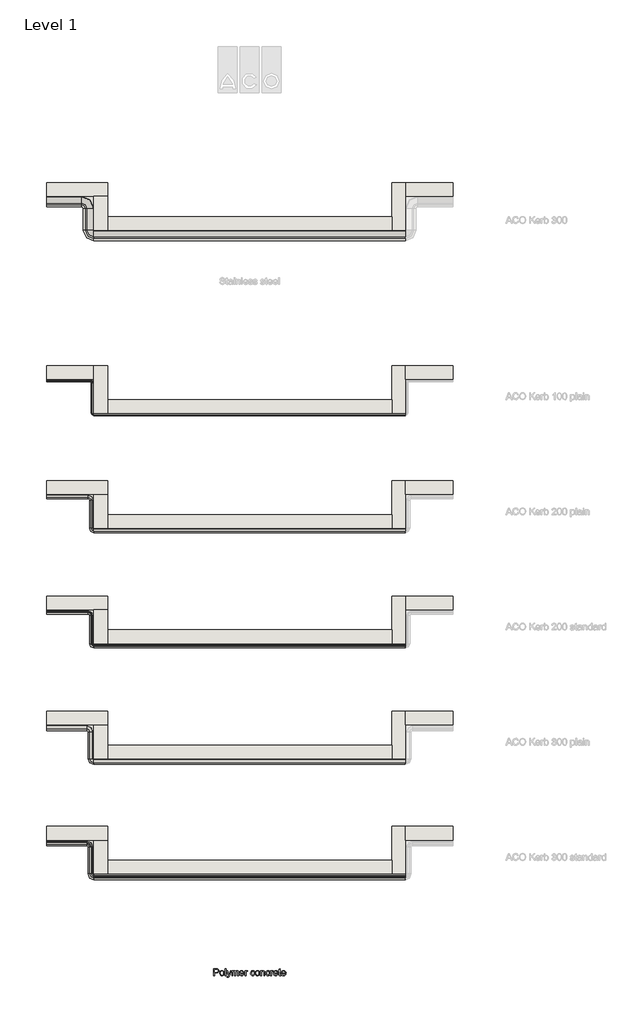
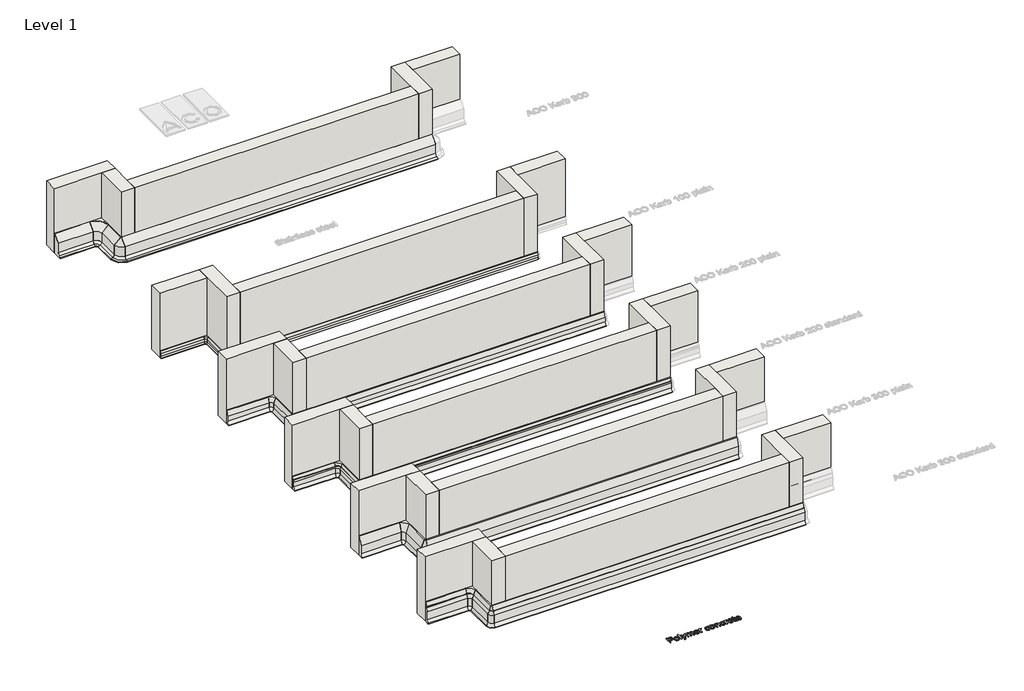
# One storey, part 1 of 4: 55 walls, 1 proxy.
"""IFC4 building model written with IfcOpenShell, lengths in millimetres."""

from ifc_helpers import new_model, si_unit, origin, origin_with_axes, place, context, project, spatial, polyline, outline, extrude, faceted_brep, transform, mapped, element, save
from components import wall_d3cf1265, wall_ed1be866, wall_ba41f0f9, wall_e165e4ae, wall_a8813c9a, wall_454f2aea, wall_7ffb6d73, wall_cbd0d6cb, wall_cad0f0ff, wall_fe3971ef, wall_2b59c576, wall_3451ad8e, wall_c90a62e6, wall_77bbd41e, wall_3f7bc12b, wall_3c18d2a6, wall_ae31afe3, wall_b8364dbe, wall_29dfddbd, wall_fa01e486, wall_fa17ddd6, wall_d662d532, wall_9d54f5ed, wall_18992cda, wall_f734193e

model = new_model("IFC4")

# Units and contexts
model_context = context("Model", 3, world=origin())
ifc_project = project(units=[si_unit("LENGTHUNIT", "METRE", prefix="MILLI")], contexts=[model_context])

# Site, building, storey
site = spatial("IfcSite", under=ifc_project)
building = spatial("IfcBuilding", under=site)
storey = spatial("IfcBuildingStorey", under=building, Name="Level 1", Elevation=0.0)

# Proxy
placement = place(None, origin())
element("IfcBuildingElementProxy", 1, Name="100mm ACO", ObjectType="100mm ACO", at=placement, inside=storey, context=model_context, shape_type="SweptSolid", body=[
    extrude(outline(polyline([(470.3703704, -14300.0), (507.9282407, -14300.0), (523.2349537, -14300.8825231), (535.15625, -14305.46875), (543.4751157, -14315.5237269), (546.2962963, -14328.8194444), (544.0719039, -14341.2507234), (537.3987269, -14350.9403935), (525.8210359, -14357.1795428), (508.8831019, -14359.2592593), (483.3333333, -14359.2592593), (483.3333333, -14400.0), (470.3703704, -14400.0), (470.3703704, -14300.0)]), holes=[polyline([(483.3333333, -14348.1481481), (509.4039352, -14348.1481481), (527.3509838, -14343.4100116), (531.8377459, -14337.4873409), (533.3333333, -14329.1956019), (530.2228009, -14318.2146991), (522.583912, -14312.2829861), (509.1145833, -14311.1111111), (483.3333333, -14311.1111111), (483.3333333, -14348.1481481)])]), origin_with_axes(), (0.0, 0.0, 1.0), 10.0),
    extrude(outline(polyline([(590.7118056, -14325.9259259), (603.8881655, -14328.3203125), (614.5978009, -14335.5034722), (621.7050058, -14347.0992477), (624.0740741, -14362.7314815), (621.5096933, -14381.0040509), (613.8165509, -14392.9976852), (602.911603, -14399.6383102), (590.7118056, -14401.8518519), (578.1213831, -14399.5768229), (567.3177083, -14392.7517361), (559.8849826, -14380.9859664), (557.4074074, -14363.8888889), (559.801794, -14347.1715856), (566.9849537, -14335.3298611), (577.7054398, -14328.2769097), (590.7118056, -14325.9259259)]), holes=[polyline([(590.7118056, -14392.5925926), (599.5189525, -14390.5852141), (605.9172454, -14384.5630787), (611.1111111, -14363.4259259), (609.6426505, -14351.1429398), (605.2372685, -14342.3032407), (598.6689815, -14336.9646991), (590.7118056, -14335.1851852), (582.599103, -14336.9900174), (576.0850694, -14342.4045139), (571.7990451, -14351.3925058), (570.3703704, -14363.9178241), (571.8243634, -14376.3997396), (576.1863426, -14385.3732639), (582.7256944, -14390.7877604), (590.7118056, -14392.5925926)])]), origin_with_axes(), (0.0, 0.0, 1.0), 10.0),
    extrude(outline(polyline([(651.8518519, -14400.0), (638.8888889, -14400.0), (638.8888889, -14300.0), (651.8518519, -14300.0), (651.8518519, -14400.0)])), origin_with_axes(), (0.0, 0.0, 1.0), 10.0),
    extrude(outline(polyline([(727.7777778, -14327.7777778), (700.6076389, -14401.9386574), (691.5653935, -14421.2818287), (685.4781539, -14426.1537905), (677.2569444, -14427.7777778), (669.6759259, -14426.6203704), (668.5185185, -14416.6666667), (675.0578704, -14418.5185185), (683.912037, -14414.5543981), (689.7858796, -14401.0706019), (662.962963, -14327.7777778), (674.681713, -14327.7777778), (692.3032407, -14373.8715278), (695.630787, -14384.8090278), (700.5497685, -14371.1226852), (716.087963, -14327.7777778), (727.7777778, -14327.7777778)])), origin_with_axes(), (0.0, 0.0, 1.0), 10.0),
    extrude(outline(polyline([(835.1851852, -14400.0), (822.2222222, -14400.0), (822.2222222, -14353.2986111), (821.5711806, -14344.4878472), (818.1857639, -14338.0063657), (809.6643519, -14335.1851852), (797.65625, -14340.3356481), (793.8585069, -14347.0920139), (792.5925926, -14357.0601852), (792.5925926, -14400.0), (779.6296296, -14400.0), (779.6296296, -14351.9097222), (776.4467593, -14338.744213), (767.4189815, -14335.1851852), (754.8900463, -14340.7552083), (751.2225116, -14348.7521701), (750.0, -14361.6030093), (750.0, -14400.0), (737.037037, -14400.0), (737.037037, -14327.7777778), (748.1481481, -14327.7777778), (748.1481481, -14337.6736111), (757.5303819, -14328.8628472), (770.0810185, -14325.9259259), (783.2609954, -14329.0943287), (790.7407407, -14338.6284722), (800.2604167, -14329.1015625), (812.8472222, -14325.9259259), (822.620081, -14327.4450231), (829.6006944, -14332.0023148), (833.7890625, -14339.5978009), (835.1851852, -14350.2314815), (835.1851852, -14400.0)])), origin_with_axes(), (0.0, 0.0, 1.0), 10.0),
    extrude(outline(polyline([(916.6666667, -14366.6666667), (862.962963, -14366.6666667), (865.0354456, -14377.7922454), (869.7482639, -14385.9375), (876.5299479, -14390.9288194), (884.8090278, -14392.5925926), (896.484375, -14388.9033565), (903.7037037, -14377.7777778), (916.6666667, -14379.2824074), (912.2902199, -14388.9033565), (905.3530093, -14396.0069444), (896.1082176, -14400.390625), (884.8090278, -14401.8518519), (870.2220775, -14399.3453414), (859.2158565, -14391.8258102), (852.3039641, -14379.9660012), (850.0, -14364.4386574), (852.2207755, -14348.900463), (858.8831019, -14336.6030093), (869.5818866, -14328.5951968), (883.912037, -14325.9259259), (899.1319444, -14329.3836806), (911.5596065, -14341.1603009), (915.3899016, -14351.6963252), (916.6666667, -14366.6666667)]), holes=[polyline([(903.7037037, -14357.4074074), (901.6203704, -14347.2511574), (896.875, -14340.3935185), (883.59375, -14335.1851852), (875.7378472, -14336.7332176), (869.4155093, -14341.3773148), (862.962963, -14357.4074074), (903.7037037, -14357.4074074)])]), origin_with_axes(), (0.0, 0.0, 1.0), 10.0),
    extrude(outline(polyline([(970.3703704, -14328.7615741), (966.3194444, -14337.037037), (957.8125, -14335.1851852), (952.0182292, -14336.8127894), (947.8298611, -14341.6956019), (944.4444444, -14359.9247685), (944.4444444, -14400.0), (931.4814815, -14400.0), (931.4814815, -14327.7777778), (942.5925926, -14327.7777778), (942.5925926, -14338.4837963), (949.5225694, -14329.0653935), (957.9571759, -14325.9259259), (970.3703704, -14328.7615741)])), origin_with_axes(), (0.0, 0.0, 1.0), 10.0),
    extrude(outline(polyline([(1077.7777778, -14375.5497685), (1073.7485532, -14387.3553241), (1066.5798611, -14395.5150463), (1057.2554977, -14400.2676505), (1046.7592593, -14401.8518519), (1032.4435764, -14399.2621528), (1021.7881944, -14391.4930556), (1015.1692708, -14379.4487847), (1012.962963, -14364.0335648), (1017.9976852, -14341.3483796), (1030.5989583, -14329.3836806), (1046.4988426, -14325.9259259), (1065.9577546, -14331.5827546), (1072.4934896, -14338.566985), (1075.9259259, -14348.2060185), (1062.962963, -14350.0), (1057.0601852, -14338.9033565), (1046.6435185, -14335.1851852), (1037.6880787, -14337.0695891), (1031.1921296, -14342.7228009), (1027.2424769, -14351.7541956), (1025.9259259, -14363.7731481), (1027.2460937, -14376.0018808), (1031.2065972, -14385.083912), (1037.6555266, -14390.7154225), (1046.4409722, -14392.5925926), (1059.0422454, -14387.962963), (1064.8148148, -14374.0740741), (1077.7777778, -14375.5497685)])), origin_with_axes(), (0.0, 0.0, 1.0), 10.0),
    extrude(outline(polyline([(1114.7858796, -14325.9259259), (1127.9622396, -14328.3203125), (1138.671875, -14335.5034722), (1145.7790799, -14347.0992477), (1148.1481481, -14362.7314815), (1145.5837674, -14381.0040509), (1137.890625, -14392.9976852), (1126.9856771, -14399.6383102), (1114.7858796, -14401.8518519), (1102.1954572, -14399.5768229), (1091.3917824, -14392.7517361), (1083.9590567, -14380.9859664), (1081.4814815, -14363.8888889), (1083.8758681, -14347.1715856), (1091.0590278, -14335.3298611), (1101.7795139, -14328.2769097), (1114.7858796, -14325.9259259)]), holes=[polyline([(1114.7858796, -14392.5925926), (1123.5930266, -14390.5852141), (1129.9913194, -14384.5630787), (1135.1851852, -14363.4259259), (1133.7167245, -14351.1429398), (1129.3113426, -14342.3032407), (1122.7430556, -14336.9646991), (1114.7858796, -14335.1851852), (1106.6731771, -14336.9900174), (1100.1591435, -14342.4045139), (1095.8731192, -14351.3925058), (1094.4444444, -14363.9178241), (1095.8984375, -14376.3997396), (1100.2604167, -14385.3732639), (1106.7997685, -14390.7877604), (1114.7858796, -14392.5925926)])]), origin_with_axes(), (0.0, 0.0, 1.0), 10.0),
    extrude(outline(polyline([(1222.2222222, -14400.0), (1209.2592593, -14400.0), (1209.2592593, -14355.0347222), (1205.396412, -14339.4386574), (1194.6469907, -14335.1851852), (1184.6209491, -14337.9050926), (1177.9079861, -14345.5729167), (1175.9259259, -14359.5775463), (1175.9259259, -14400.0), (1162.962963, -14400.0), (1162.962963, -14327.7777778), (1174.0740741, -14327.7777778), (1174.0740741, -14337.818287), (1183.9699074, -14328.8917824), (1197.2222222, -14325.9259259), (1208.59375, -14327.9803241), (1217.3900463, -14334.1290509), (1221.3975694, -14342.8674769), (1222.2222222, -14355.4108796), (1222.2222222, -14400.0)])), origin_with_axes(), (0.0, 0.0, 1.0), 10.0),
    extrude(outline(polyline([(1301.8518519, -14375.5497685), (1297.8226273, -14387.3553241), (1290.6539352, -14395.5150463), (1281.3295718, -14400.2676505), (1270.8333333, -14401.8518519), (1256.5176505, -14399.2621528), (1245.8622685, -14391.4930556), (1239.2433449, -14379.4487847), (1237.037037, -14364.0335648), (1242.0717593, -14341.3483796), (1254.6730324, -14329.3836806), (1270.5729167, -14325.9259259), (1290.0318287, -14331.5827546), (1296.5675637, -14338.566985), (1300.0, -14348.2060185), (1287.037037, -14350.0), (1281.1342593, -14338.9033565), (1270.7175926, -14335.1851852), (1261.7621528, -14337.0695891), (1255.2662037, -14342.7228009), (1251.3165509, -14351.7541956), (1250.0, -14363.7731481), (1251.3201678, -14376.0018808), (1255.2806713, -14385.083912), (1261.7296007, -14390.7154225), (1270.5150463, -14392.5925926), (1283.1163194, -14387.962963), (1288.8888889, -14374.0740741), (1301.8518519, -14375.5497685)])), origin_with_axes(), (0.0, 0.0, 1.0), 10.0),
    extrude(outline(polyline([(1348.1481481, -14328.7615741), (1344.0972222, -14337.037037), (1335.5902778, -14335.1851852), (1329.7960069, -14336.8127894), (1325.6076389, -14341.6956019), (1322.2222222, -14359.9247685), (1322.2222222, -14400.0), (1309.2592593, -14400.0), (1309.2592593, -14327.7777778), (1320.3703704, -14327.7777778), (1320.3703704, -14338.4837963), (1327.3003472, -14329.0653935), (1335.7349537, -14325.9259259), (1348.1481481, -14328.7615741)])), origin_with_axes(), (0.0, 0.0, 1.0), 10.0),
    extrude(outline(polyline([(1418.5185185, -14366.6666667), (1364.8148148, -14366.6666667), (1366.8872975, -14377.7922454), (1371.6001157, -14385.9375), (1378.3817998, -14390.9288194), (1386.6608796, -14392.5925926), (1398.3362269, -14388.9033565), (1405.5555556, -14377.7777778), (1418.5185185, -14379.2824074), (1414.1420718, -14388.9033565), (1407.2048611, -14396.0069444), (1397.9600694, -14400.390625), (1386.6608796, -14401.8518519), (1372.0739294, -14399.3453414), (1361.0677083, -14391.8258102), (1354.155816, -14379.9660012), (1351.8518519, -14364.4386574), (1354.0726273, -14348.900463), (1360.7349537, -14336.6030093), (1371.4337384, -14328.5951968), (1385.7638889, -14325.9259259), (1400.9837963, -14329.3836806), (1413.4114583, -14341.1603009), (1417.2417535, -14351.6963252), (1418.5185185, -14366.6666667)]), holes=[polyline([(1405.5555556, -14357.4074074), (1403.4722222, -14347.2511574), (1398.7268519, -14340.3935185), (1385.4456019, -14335.1851852), (1377.5896991, -14336.7332176), (1371.2673611, -14341.3773148), (1364.8148148, -14357.4074074), (1405.5555556, -14357.4074074)])]), origin_with_axes(), (0.0, 0.0, 1.0), 10.0),
    extrude(outline(polyline([(1461.1111111, -14401.0127315), (1452.025463, -14401.8518519), (1440.4369213, -14398.9728009), (1435.9953704, -14391.6666667), (1435.1851852, -14379.3402778), (1435.1851852, -14337.037037), (1425.9259259, -14337.037037), (1425.9259259, -14327.7777778), (1435.1851852, -14327.7777778), (1435.1851852, -14309.4328704), (1448.1481481, -14301.8518519), (1448.1481481, -14327.7777778), (1459.2592593, -14327.7777778), (1459.2592593, -14337.037037), (1448.1481481, -14337.037037), (1448.1481481, -14381.9444444), (1449.1898148, -14390.162037), (1454.4849537, -14392.5925926), (1459.5196759, -14392.5925926), (1461.1111111, -14401.0127315)])), origin_with_axes(), (0.0, 0.0, 1.0), 10.0),
    extrude(outline(polyline([(1535.1851852, -14366.6666667), (1481.4814815, -14366.6666667), (1483.5539641, -14377.7922454), (1488.2667824, -14385.9375), (1495.0484664, -14390.9288194), (1503.3275463, -14392.5925926), (1515.0028935, -14388.9033565), (1522.2222222, -14377.7777778), (1535.1851852, -14379.2824074), (1530.8087384, -14388.9033565), (1523.8715278, -14396.0069444), (1514.6267361, -14400.390625), (1503.3275463, -14401.8518519), (1488.7405961, -14399.3453414), (1477.734375, -14391.8258102), (1470.8224826, -14379.9660012), (1468.5185185, -14364.4386574), (1470.739294, -14348.900463), (1477.4016204, -14336.6030093), (1488.1004051, -14328.5951968), (1502.4305556, -14325.9259259), (1517.650463, -14329.3836806), (1530.078125, -14341.1603009), (1533.9084201, -14351.6963252), (1535.1851852, -14366.6666667)]), holes=[polyline([(1522.2222222, -14357.4074074), (1520.1388889, -14347.2511574), (1515.3935185, -14340.3935185), (1502.1122685, -14335.1851852), (1494.2563657, -14336.7332176), (1487.9340278, -14341.3773148), (1481.4814815, -14357.4074074), (1522.2222222, -14357.4074074)])]), origin_with_axes(), (0.0, 0.0, 1.0), 10.0),
])

# Walls
wall_shape = wall_d3cf1265(model_context)
element("IfcWall", 2, ObjectType="GM_ST_UN_ACO kerb SS outside corner_ACO : S/S H300", at=placement, inside=storey, context=model_context, shape_type="MappedRepresentation", body=[
    mapped(wall_shape, transform((-1300.0, -3400.0, 0.0), x_axis=(1.0, 0.0, 0.0), y_axis=(0.0, 1.0, 0.0), z_axis=(0.0, 0.0, 1.0))),
])
wall_2_shape = wall_ed1be866(model_context)
element("IfcWall", 3, ObjectType="GM_PC_UN_ACO kerb PB inside corner_ACO : PB H200 plain", at=placement, inside=storey, context=model_context, shape_type="MappedRepresentation", body=[
    mapped(wall_2_shape, transform((-1300.0, -7300.0, 0.0), x_axis=(1.0, 0.0, 0.0), y_axis=(0.0, 1.0, 0.0), z_axis=(0.0, 0.0, 1.0))),
])
wall_3_shape = wall_ba41f0f9(model_context)
element("IfcWall", 4, ObjectType="GM_PC_UN_ACO kerb PB inside corner_ACO : PB H300 plain", at=placement, inside=storey, context=model_context, shape_type="MappedRepresentation", body=[
    mapped(wall_3_shape, transform((-1300.0, -10700.0, 0.0), x_axis=(1.0, 0.0, 0.0), y_axis=(0.0, 1.0, 0.0), z_axis=(0.0, 0.0, 1.0))),
])
wall_4_shape = wall_e165e4ae(model_context)
element("IfcWall", 5, ObjectType="GM_PC_UN_ACO kerb PB inside corner_ACO : PB H200 standard", at=placement, inside=storey, context=model_context, shape_type="MappedRepresentation", body=[
    mapped(wall_4_shape, transform((-1300.0, -9000.0, 0.0), x_axis=(1.0, 0.0, 0.0), y_axis=(0.0, 1.0, 0.0), z_axis=(0.0, 0.0, 1.0))),
])
wall_5_shape = wall_a8813c9a(model_context)
element("IfcWall", 6, ObjectType="GM_PC_UN_ACO kerb PB inside corner_ACO : PB H300 standard", at=placement, inside=storey, context=model_context, shape_type="MappedRepresentation", body=[
    mapped(wall_5_shape, transform((-1300.0, -12400.0, 0.0), x_axis=(1.0000000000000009, 0.0, 0.0), y_axis=(0.0, 1.0000000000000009, 0.0), z_axis=(0.0, 0.0, 1.0))),
])
wall_6_shape = wall_454f2aea(model_context)
element("IfcWall", 7, ObjectType="GM_ST_UN_ACO kerb SS inside corner_ACO : S/S H300", at=placement, inside=storey, context=model_context, shape_type="MappedRepresentation", body=[
    mapped(wall_6_shape, transform((-1300.0, -2900.0, 0.0), x_axis=(1.0, 0.0, 0.0), y_axis=(0.0, 1.0, 0.0), z_axis=(0.0, 0.0, 1.0))),
])
wall_7_shape = wall_7ffb6d73(model_context)
element("IfcWall", 8, ObjectType="GM_ST_WPB_ACO kerb SS straight_ACO : S/S H300", at=placement, inside=storey, context=model_context, shape_type="MappedRepresentation", body=[
    mapped(wall_7_shape, transform((-1300.0, -3082.0, 0.0), x_axis=(0.0, -1.0, 0.0), y_axis=(1.0, 0.0, 0.0), z_axis=(0.0, 0.0, 1.0))),
])
wall_8_shape = wall_cbd0d6cb(model_context)
element("IfcWall", 9, ObjectType="GM_ST_WPB_ACO kerb SS straight_ACO : S/S H300", at=placement, inside=storey, context=model_context, shape_type="MappedRepresentation", body=[
    mapped(wall_8_shape, transform((-2000.0, -2900.0, 0.0), x_axis=(1.0, 0.0, 0.0), y_axis=(0.0, 1.0, 0.0), z_axis=(0.0, 0.0, 1.0))),
])
wall_9_shape = wall_cad0f0ff(model_context)
element("IfcWall", 10, ObjectType="GM_ST_WPB_ACO kerb SS straight_ACO : S/S H300", at=placement, inside=storey, context=model_context, shape_type="MappedRepresentation", body=[
    mapped(wall_9_shape, transform((-1300.0, -3400.0, 0.0), x_axis=(1.0, 0.0, 0.0), y_axis=(0.0, 1.0, 0.0), z_axis=(0.0, 0.0, 1.0))),
])
wall_10_shape = wall_fe3971ef(model_context)
element("IfcWall", 11, ObjectType="GM_PC_UN_ACO kerb PB outside corner_ACO : PB H200 plain", at=placement, inside=storey, context=model_context, shape_type="MappedRepresentation", body=[
    mapped(wall_10_shape, transform((-1300.0, -7800.0, 0.0), x_axis=(0.0, 1.0000000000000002, 0.0), y_axis=(-1.0000000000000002, 0.0, 0.0), z_axis=(0.0, 0.0, 1.0))),
])
wall_11_shape = wall_2b59c576(model_context)
element("IfcWall", 12, ObjectType="GM_PC_UN_ACO kerb PB outside corner_ACO : PB H200 standard", at=placement, inside=storey, context=model_context, shape_type="MappedRepresentation", body=[
    mapped(wall_11_shape, transform((-1300.0, -9500.0, 0.0), x_axis=(0.0, 1.0000000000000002, 0.0), y_axis=(-1.0000000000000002, 0.0, 0.0), z_axis=(0.0, 0.0, 1.0))),
])
wall_12_shape = wall_3451ad8e(model_context)
element("IfcWall", 13, ObjectType="GM_PC_UN_ACO kerb PB outside corner_ACO : PB H300 plain", at=placement, inside=storey, context=model_context, shape_type="MappedRepresentation", body=[
    mapped(wall_12_shape, transform((-1300.0, -11200.0, 0.0), x_axis=(0.0, 1.0000000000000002, 0.0), y_axis=(-1.0000000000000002, 0.0, 0.0), z_axis=(0.0, 0.0, 1.0))),
])
wall_13_shape = wall_c90a62e6(model_context)
element("IfcWall", 14, ObjectType="GM_PC_UN_ACO kerb PB outside corner_ACO : PB H300 standard", at=placement, inside=storey, context=model_context, shape_type="MappedRepresentation", body=[
    mapped(wall_13_shape, transform((-1300.0, -12900.0, 0.0), x_axis=(0.0, 1.0000000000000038, 0.0), y_axis=(-1.0000000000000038, 0.0, 0.0), z_axis=(0.0, 0.0, 1.0))),
])
wall_14_shape = wall_77bbd41e(model_context)
element("IfcWall", 15, ObjectType="GM_PC_UN_ACO kerb PB inside corner_ACO : PB H100 plain", at=placement, inside=storey, context=model_context, shape_type="MappedRepresentation", body=[
    mapped(wall_14_shape, transform((-1300.0, -5600.0, 0.0), x_axis=(1.0, 0.0, 0.0), y_axis=(0.0, 1.0, 0.0), z_axis=(0.0, 0.0, 1.0))),
])
wall_15_shape = wall_3f7bc12b(model_context)
element("IfcWall", 16, ObjectType="GM_PC_UN_ACO kerb PB outside corner_ACO : PB H100 plain", at=placement, inside=storey, context=model_context, shape_type="MappedRepresentation", body=[
    mapped(wall_15_shape, transform((-1300.0, -6100.0, 0.0), x_axis=(0.0, 1.0000000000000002, 0.0), y_axis=(-1.0000000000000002, 0.0, 0.0), z_axis=(0.0, 0.0, 1.0))),
])
wall_16_shape = wall_3c18d2a6(model_context)
element("IfcWall", 17, ObjectType="GM_PC_WPB_ACO kerb PB straight_ACO : PB H200 plain", at=placement, inside=storey, context=model_context, shape_type="MappedRepresentation", body=[
    mapped(wall_16_shape, transform((-1300.0, -7800.0, 0.0), x_axis=(1.0, 0.0, 0.0), y_axis=(0.0, 1.0, 0.0), z_axis=(0.0, 0.0, 1.0))),
])
wall_17_shape = wall_ae31afe3(model_context)
element("IfcWall", 18, ObjectType="GM_PC_WPB_ACO kerb PB straight_ACO : PB H200 plain", at=placement, inside=storey, context=model_context, shape_type="MappedRepresentation", body=[
    mapped(wall_17_shape, transform((-2000.0, -7300.0, 0.0), x_axis=(1.0, 0.0, 0.0), y_axis=(0.0, 1.0, 0.0), z_axis=(0.0, 0.0, 1.0))),
])
wall_18_shape = wall_b8364dbe(model_context)
element("IfcWall", 19, ObjectType="GM_PC_WPB_ACO kerb PB straight_ACO : PB H200 standard", at=placement, inside=storey, context=model_context, shape_type="MappedRepresentation", body=[
    mapped(wall_18_shape, transform((-1300.0, -9500.0, 0.0), x_axis=(1.0, 0.0, 0.0), y_axis=(0.0, 1.0, 0.0), z_axis=(0.0, 0.0, 1.0))),
])
wall_19_shape = wall_29dfddbd(model_context)
element("IfcWall", 20, ObjectType="GM_PC_WPB_ACO kerb PB straight_ACO : PB H200 standard", at=placement, inside=storey, context=model_context, shape_type="MappedRepresentation", body=[
    mapped(wall_19_shape, transform((-2000.0, -9000.0, 0.0), x_axis=(1.0, 0.0, 0.0), y_axis=(0.0, 1.0, 0.0), z_axis=(0.0, 0.0, 1.0))),
])
wall_20_shape = wall_fa01e486(model_context)
element("IfcWall", 21, ObjectType="GM_PC_WPB_ACO kerb PB straight_ACO : PB H300 plain", at=placement, inside=storey, context=model_context, shape_type="MappedRepresentation", body=[
    mapped(wall_20_shape, transform((-2000.0, -10700.0, 0.0), x_axis=(1.0, 0.0, 0.0), y_axis=(0.0, 1.0, 0.0), z_axis=(0.0, 0.0, 1.0))),
])
wall_21_shape = wall_fa17ddd6(model_context)
element("IfcWall", 22, ObjectType="GM_PC_WPB_ACO kerb PB straight_ACO : PB H300 standard", at=placement, inside=storey, context=model_context, shape_type="MappedRepresentation", body=[
    mapped(wall_21_shape, transform((-1300.0, -12900.0, 0.0), x_axis=(1.0, 0.0, 0.0), y_axis=(0.0, 1.0, 0.0), z_axis=(0.0, 0.0, 1.0))),
])
wall_22_shape = wall_d662d532(model_context)
element("IfcWall", 23, ObjectType="GM_PC_WPB_ACO kerb PB straight_ACO : PB H300 standard", at=placement, inside=storey, context=model_context, shape_type="MappedRepresentation", body=[
    mapped(wall_22_shape, transform((-2000.0, -12400.0, 0.0), x_axis=(1.0, 0.0, 0.0), y_axis=(0.0, 1.0, 0.0), z_axis=(0.0, 0.0, 1.0))),
])
wall_23_shape = wall_9d54f5ed(model_context)
element("IfcWall", 24, ObjectType="GM_PC_WPB_ACO kerb PB straight_ACO : PB H300 plain", at=placement, inside=storey, context=model_context, shape_type="MappedRepresentation", body=[
    mapped(wall_23_shape, transform((-1300.0, -11200.0, 0.0), x_axis=(1.0, 0.0, 0.0), y_axis=(0.0, 1.0, 0.0), z_axis=(0.0, 0.0, 1.0))),
])
wall_24_shape = wall_18992cda(model_context)
element("IfcWall", 25, ObjectType="GM_PC_WPB_ACO kerb PB straight_ACO : PB H100 plain", at=placement, inside=storey, context=model_context, shape_type="MappedRepresentation", body=[
    mapped(wall_24_shape, transform((-1300.0, -6100.0, 0.0), x_axis=(1.0, 0.0, 0.0), y_axis=(0.0, 1.0, 0.0), z_axis=(0.0, 0.0, 1.0))),
])
wall_25_shape = wall_f734193e(model_context)
element("IfcWall", 26, ObjectType="GM_PC_WPB_ACO kerb PB straight_ACO : PB H100 plain", at=placement, inside=storey, context=model_context, shape_type="MappedRepresentation", body=[
    mapped(wall_25_shape, transform((-2000.0, -5600.0, 0.0), x_axis=(1.0, 0.0, 0.0), y_axis=(0.0, 1.0, 0.0), z_axis=(0.0, 0.0, 1.0))),
])
element("IfcWall", 27, ObjectType="Wall 1", at=placement, inside=storey, context=model_context, shape_type="Brep", body=[
    faceted_brep([(-2000.0, -7300.0, 0.0), (-1300.0, -7300.0, 0.0), (-1100.0, -7300.0, 0.0), (-1100.0, -7300.0, 1000.0), (-1300.0, -7300.0, 1000.0), (-2000.0, -7300.0, 1000.0), (-2000.0, -7100.0, 0.0), (-2000.0, -7100.0, 1000.0), (-1100.0, -7100.0, 1000.0), (-1100.0, -7100.0, 0.0)], [[[0, 1, 2, 3, 4, 5]], [[6, 7, 8, 9]], [[2, 1, 0, 6, 9]], [[5, 4, 3, 8, 7]], [[0, 5, 7, 6]], [[3, 2, 9, 8]]]),
])
element("IfcWall", 28, ObjectType="Wall 1", at=placement, inside=storey, context=model_context, shape_type="Brep", body=[
    faceted_brep([(-1300.0, -7300.0, 0.0), (-1300.0, -7800.0, 0.0), (-1300.0, -7800.0, 1000.0), (-1300.0, -7300.0, 1000.0), (-1100.0, -7300.0, 0.0), (-1100.0, -7300.0, 1000.0), (-1100.0, -7600.0, 1000.0), (-1100.0, -7800.0, 1000.0), (-1100.0, -7800.0, 0.0), (-1100.0, -7600.0, 0.0)], [[[0, 1, 2, 3]], [[4, 5, 6, 7, 8, 9]], [[1, 0, 4, 9, 8]], [[3, 2, 7, 6, 5]], [[0, 3, 5, 4]], [[2, 1, 8, 7]]]),
])
element("IfcWall", 29, ObjectType="Wall 1", at=placement, inside=storey, context=model_context, shape_type="SweptSolid", body=[
    extrude(outline(polyline([(3100.0, -7800.0), (-1100.0, -7800.0), (-1100.0, -7600.0), (3100.0, -7600.0), (3100.0, -7800.0)])), origin_with_axes(), (0.0, 0.0, 1.0), 1000.0),
])
element("IfcWall", 30, ObjectType="Wall 1", at=placement, inside=storey, context=model_context, shape_type="SweptSolid", body=[
    extrude(outline(polyline([(3300.0, -7100.0), (4000.0, -7100.0), (4000.0, -7300.0), (3300.0, -7300.0), (3300.0, -7100.0)])), origin_with_axes(), (0.0, 0.0, 1.0), 1000.0),
])
element("IfcWall", 31, ObjectType="Wall 1", at=placement, inside=storey, context=model_context, shape_type="Brep", body=[
    faceted_brep([(3100.0, -7100.0, 0.0), (3100.0, -7600.0, 0.0), (3100.0, -7800.0, 0.0), (3100.0, -7800.0, 1000.0), (3100.0, -7600.0, 1000.0), (3100.0, -7100.0, 1000.0), (3300.0, -7100.0, 0.0), (3300.0, -7100.0, 1000.0), (3300.0, -7300.0, 1000.0), (3300.0, -7800.0, 1000.0), (3300.0, -7800.0, 0.0), (3300.0, -7300.0, 0.0)], [[[0, 1, 2, 3, 4, 5]], [[6, 7, 8, 9, 10, 11]], [[2, 1, 0, 6, 11, 10]], [[5, 4, 3, 9, 8, 7]], [[0, 5, 7, 6]], [[3, 2, 10, 9]]]),
])
element("IfcWall", 32, ObjectType="Wall 1", at=placement, inside=storey, context=model_context, shape_type="Brep", body=[
    faceted_brep([(-2000.0, -9000.0, 0.0), (-1300.0, -9000.0, 0.0), (-1100.0, -9000.0, 0.0), (-1100.0, -9000.0, 1000.0), (-1300.0, -9000.0, 1000.0), (-2000.0, -9000.0, 1000.0), (-2000.0, -8800.0, 0.0), (-2000.0, -8800.0, 1000.0), (-1100.0, -8800.0, 1000.0), (-1100.0, -8800.0, 0.0)], [[[0, 1, 2, 3, 4, 5]], [[6, 7, 8, 9]], [[2, 1, 0, 6, 9]], [[5, 4, 3, 8, 7]], [[0, 5, 7, 6]], [[3, 2, 9, 8]]]),
])
element("IfcWall", 33, ObjectType="Wall 1", at=placement, inside=storey, context=model_context, shape_type="Brep", body=[
    faceted_brep([(-1300.0, -9000.0, 0.0), (-1300.0, -9500.0, 0.0), (-1300.0, -9500.0, 1000.0), (-1300.0, -9000.0, 1000.0), (-1100.0, -9000.0, 0.0), (-1100.0, -9000.0, 1000.0), (-1100.0, -9300.0, 1000.0), (-1100.0, -9500.0, 1000.0), (-1100.0, -9500.0, 0.0), (-1100.0, -9300.0, 0.0)], [[[0, 1, 2, 3]], [[4, 5, 6, 7, 8, 9]], [[1, 0, 4, 9, 8]], [[3, 2, 7, 6, 5]], [[0, 3, 5, 4]], [[2, 1, 8, 7]]]),
])
element("IfcWall", 34, ObjectType="Wall 1", at=placement, inside=storey, context=model_context, shape_type="SweptSolid", body=[
    extrude(outline(polyline([(3100.0, -9500.0), (-1100.0, -9500.0), (-1100.0, -9300.0), (3100.0, -9300.0), (3100.0, -9500.0)])), origin_with_axes(), (0.0, 0.0, 1.0), 1000.0),
])
element("IfcWall", 35, ObjectType="Wall 1", at=placement, inside=storey, context=model_context, shape_type="SweptSolid", body=[
    extrude(outline(polyline([(3300.0, -8800.0), (4000.0, -8800.0), (4000.0, -9000.0), (3300.0, -9000.0), (3300.0, -8800.0)])), origin_with_axes(), (0.0, 0.0, 1.0), 1000.0),
])
element("IfcWall", 36, ObjectType="Wall 1", at=placement, inside=storey, context=model_context, shape_type="Brep", body=[
    faceted_brep([(3100.0, -8800.0, 0.0), (3100.0, -9300.0, 0.0), (3100.0, -9500.0, 0.0), (3100.0, -9500.0, 1000.0), (3100.0, -9300.0, 1000.0), (3100.0, -8800.0, 1000.0), (3300.0, -8800.0, 0.0), (3300.0, -8800.0, 1000.0), (3300.0, -9000.0, 1000.0), (3300.0, -9500.0, 1000.0), (3300.0, -9500.0, 0.0), (3300.0, -9000.0, 0.0)], [[[0, 1, 2, 3, 4, 5]], [[6, 7, 8, 9, 10, 11]], [[2, 1, 0, 6, 11, 10]], [[5, 4, 3, 9, 8, 7]], [[0, 5, 7, 6]], [[3, 2, 10, 9]]]),
])
element("IfcWall", 37, ObjectType="Wall 1", at=placement, inside=storey, context=model_context, shape_type="Brep", body=[
    faceted_brep([(-2000.0, -10700.0, 0.0), (-1300.0, -10700.0, 0.0), (-1100.0, -10700.0, 0.0), (-1100.0, -10700.0, 1000.0), (-1300.0, -10700.0, 1000.0), (-2000.0, -10700.0, 1000.0), (-2000.0, -10500.0, 0.0), (-2000.0, -10500.0, 1000.0), (-1100.0, -10500.0, 1000.0), (-1100.0, -10500.0, 0.0)], [[[0, 1, 2, 3, 4, 5]], [[6, 7, 8, 9]], [[2, 1, 0, 6, 9]], [[5, 4, 3, 8, 7]], [[0, 5, 7, 6]], [[3, 2, 9, 8]]]),
])
element("IfcWall", 38, ObjectType="Wall 1", at=placement, inside=storey, context=model_context, shape_type="Brep", body=[
    faceted_brep([(-1300.0, -10700.0, 0.0), (-1300.0, -11200.0, 0.0), (-1300.0, -11200.0, 1000.0), (-1300.0, -10700.0, 1000.0), (-1100.0, -10700.0, 0.0), (-1100.0, -10700.0, 1000.0), (-1100.0, -11000.0, 1000.0), (-1100.0, -11200.0, 1000.0), (-1100.0, -11200.0, 0.0), (-1100.0, -11000.0, 0.0)], [[[0, 1, 2, 3]], [[4, 5, 6, 7, 8, 9]], [[1, 0, 4, 9, 8]], [[3, 2, 7, 6, 5]], [[0, 3, 5, 4]], [[2, 1, 8, 7]]]),
])
element("IfcWall", 39, ObjectType="Wall 1", at=placement, inside=storey, context=model_context, shape_type="SweptSolid", body=[
    extrude(outline(polyline([(3100.0, -11200.0), (-1100.0, -11200.0), (-1100.0, -11000.0), (3100.0, -11000.0), (3100.0, -11200.0)])), origin_with_axes(), (0.0, 0.0, 1.0), 1000.0),
])
element("IfcWall", 40, ObjectType="Wall 1", at=placement, inside=storey, context=model_context, shape_type="SweptSolid", body=[
    extrude(outline(polyline([(3300.0, -10500.0), (4000.0, -10500.0), (4000.0, -10700.0), (3300.0, -10700.0), (3300.0, -10500.0)])), origin_with_axes(), (0.0, 0.0, 1.0), 1000.0),
])
element("IfcWall", 41, ObjectType="Wall 1", at=placement, inside=storey, context=model_context, shape_type="Brep", body=[
    faceted_brep([(3100.0, -10500.0, 0.0), (3100.0, -11000.0, 0.0), (3100.0, -11200.0, 0.0), (3100.0, -11200.0, 1000.0), (3100.0, -11000.0, 1000.0), (3100.0, -10500.0, 1000.0), (3300.0, -10500.0, 0.0), (3300.0, -10500.0, 1000.0), (3300.0, -10700.0, 1000.0), (3300.0, -11200.0, 1000.0), (3300.0, -11200.0, 0.0), (3300.0, -10700.0, 0.0)], [[[0, 1, 2, 3, 4, 5]], [[6, 7, 8, 9, 10, 11]], [[2, 1, 0, 6, 11, 10]], [[5, 4, 3, 9, 8, 7]], [[0, 5, 7, 6]], [[3, 2, 10, 9]]]),
])
element("IfcWall", 42, ObjectType="Wall 1", at=placement, inside=storey, context=model_context, shape_type="Brep", body=[
    faceted_brep([(-2000.0, -12400.0, 0.0), (-1300.0, -12400.0, 0.0), (-1100.0, -12400.0, 0.0), (-1100.0, -12400.0, 1000.0), (-1300.0, -12400.0, 1000.0), (-2000.0, -12400.0, 1000.0), (-2000.0, -12200.0, 0.0), (-2000.0, -12200.0, 1000.0), (-1100.0, -12200.0, 1000.0), (-1100.0, -12200.0, 0.0)], [[[0, 1, 2, 3, 4, 5]], [[6, 7, 8, 9]], [[2, 1, 0, 6, 9]], [[5, 4, 3, 8, 7]], [[0, 5, 7, 6]], [[3, 2, 9, 8]]]),
])
element("IfcWall", 43, ObjectType="Wall 1", at=placement, inside=storey, context=model_context, shape_type="Brep", body=[
    faceted_brep([(-1300.0, -12400.0, 0.0), (-1300.0, -12900.0, 0.0), (-1300.0, -12900.0, 1000.0), (-1300.0, -12400.0, 1000.0), (-1100.0, -12400.0, 0.0), (-1100.0, -12400.0, 1000.0), (-1100.0, -12700.0, 1000.0), (-1100.0, -12900.0, 1000.0), (-1100.0, -12900.0, 0.0), (-1100.0, -12700.0, 0.0)], [[[0, 1, 2, 3]], [[4, 5, 6, 7, 8, 9]], [[1, 0, 4, 9, 8]], [[3, 2, 7, 6, 5]], [[0, 3, 5, 4]], [[2, 1, 8, 7]]]),
])
element("IfcWall", 44, ObjectType="Wall 1", at=placement, inside=storey, context=model_context, shape_type="SweptSolid", body=[
    extrude(outline(polyline([(3100.0, -12900.0), (-1100.0, -12900.0), (-1100.0, -12700.0), (3100.0, -12700.0), (3100.0, -12900.0)])), origin_with_axes(), (0.0, 0.0, 1.0), 1000.0),
])
element("IfcWall", 45, ObjectType="Wall 1", at=placement, inside=storey, context=model_context, shape_type="SweptSolid", body=[
    extrude(outline(polyline([(3300.0, -12200.0), (4000.0, -12200.0), (4000.0, -12400.0), (3300.0, -12400.0), (3300.0, -12200.0)])), origin_with_axes(), (0.0, 0.0, 1.0), 1000.0),
])
element("IfcWall", 46, ObjectType="Wall 1", at=placement, inside=storey, context=model_context, shape_type="Brep", body=[
    faceted_brep([(3100.0, -12200.0, 0.0), (3100.0, -12700.0, 0.0), (3100.0, -12900.0, 0.0), (3100.0, -12900.0, 1000.0), (3100.0, -12700.0, 1000.0), (3100.0, -12200.0, 1000.0), (3300.0, -12200.0, 0.0), (3300.0, -12200.0, 1000.0), (3300.0, -12400.0, 1000.0), (3300.0, -12900.0, 1000.0), (3300.0, -12900.0, 0.0), (3300.0, -12400.0, 0.0)], [[[0, 1, 2, 3, 4, 5]], [[6, 7, 8, 9, 10, 11]], [[2, 1, 0, 6, 11, 10]], [[5, 4, 3, 9, 8, 7]], [[0, 5, 7, 6]], [[3, 2, 10, 9]]]),
])
element("IfcWall", 47, ObjectType="Wall 1", at=placement, inside=storey, context=model_context, shape_type="Brep", body=[
    faceted_brep([(-2000.0, -2900.0, 0.0), (-1300.0, -2900.0, 0.0), (-1100.0, -2900.0, 0.0), (-1100.0, -2900.0, 1000.0), (-1300.0, -2900.0, 1000.0), (-2000.0, -2900.0, 1000.0), (-2000.0, -2700.0, 0.0), (-2000.0, -2700.0, 1000.0), (-1100.0, -2700.0, 1000.0), (-1100.0, -2700.0, 0.0)], [[[0, 1, 2, 3, 4, 5]], [[6, 7, 8, 9]], [[2, 1, 0, 6, 9]], [[5, 4, 3, 8, 7]], [[0, 5, 7, 6]], [[3, 2, 9, 8]]]),
])
element("IfcWall", 48, ObjectType="Wall 1", at=placement, inside=storey, context=model_context, shape_type="Brep", body=[
    faceted_brep([(-1300.0, -2900.0, 0.0), (-1300.0, -3400.0, 0.0), (-1300.0, -3400.0, 1000.0), (-1300.0, -2900.0, 1000.0), (-1100.0, -2900.0, 0.0), (-1100.0, -2900.0, 1000.0), (-1100.0, -3200.0, 1000.0), (-1100.0, -3400.0, 1000.0), (-1100.0, -3400.0, 0.0), (-1100.0, -3200.0, 0.0)], [[[0, 1, 2, 3]], [[4, 5, 6, 7, 8, 9]], [[1, 0, 4, 9, 8]], [[3, 2, 7, 6, 5]], [[0, 3, 5, 4]], [[2, 1, 8, 7]]]),
])
element("IfcWall", 49, ObjectType="Wall 1", at=placement, inside=storey, context=model_context, shape_type="SweptSolid", body=[
    extrude(outline(polyline([(3100.0, -3400.0), (-1100.0, -3400.0), (-1100.0, -3200.0), (3100.0, -3200.0), (3100.0, -3400.0)])), origin_with_axes(), (0.0, 0.0, 1.0), 1000.0),
])
element("IfcWall", 50, ObjectType="Wall 1", at=placement, inside=storey, context=model_context, shape_type="SweptSolid", body=[
    extrude(outline(polyline([(3300.0, -2700.0), (4000.0, -2700.0), (4000.0, -2900.0), (3300.0, -2900.0), (3300.0, -2700.0)])), origin_with_axes(), (0.0, 0.0, 1.0), 1000.0),
])
element("IfcWall", 51, ObjectType="Wall 1", at=placement, inside=storey, context=model_context, shape_type="Brep", body=[
    faceted_brep([(3100.0, -2700.0, 0.0), (3100.0, -3200.0, 0.0), (3100.0, -3400.0, 0.0), (3100.0, -3400.0, 1000.0), (3100.0, -3200.0, 1000.0), (3100.0, -2700.0, 1000.0), (3300.0, -2700.0, 0.0), (3300.0, -2700.0, 1000.0), (3300.0, -2900.0, 1000.0), (3300.0, -3400.0, 1000.0), (3300.0, -3400.0, 0.0), (3300.0, -2900.0, 0.0)], [[[0, 1, 2, 3, 4, 5]], [[6, 7, 8, 9, 10, 11]], [[2, 1, 0, 6, 11, 10]], [[5, 4, 3, 9, 8, 7]], [[0, 5, 7, 6]], [[3, 2, 10, 9]]]),
])
element("IfcWall", 52, ObjectType="Wall 1", at=placement, inside=storey, context=model_context, shape_type="Brep", body=[
    faceted_brep([(-1300.0, -5400.0, 0.0), (-1300.0, -5600.0, 0.0), (-1300.0, -6100.0, 0.0), (-1300.0, -6100.0, 1000.0), (-1300.0, -5600.0, 1000.0), (-1300.0, -5400.0, 1000.0), (-1100.0, -5400.0, 0.0), (-1100.0, -5400.0, 1000.0), (-1100.0, -5900.0, 1000.0), (-1100.0, -6100.0, 1000.0), (-1100.0, -6100.0, 0.0), (-1100.0, -5900.0, 0.0)], [[[0, 1, 2, 3, 4, 5]], [[6, 7, 8, 9, 10, 11]], [[2, 1, 0, 6, 11, 10]], [[5, 4, 3, 9, 8, 7]], [[3, 2, 10, 9]], [[0, 5, 7, 6]]]),
])
element("IfcWall", 53, ObjectType="Wall 1", at=placement, inside=storey, context=model_context, shape_type="SweptSolid", body=[
    extrude(outline(polyline([(3100.0, -6100.0), (-1100.0, -6100.0), (-1100.0, -5900.0), (3100.0, -5900.0), (3100.0, -6100.0)])), origin_with_axes(), (0.0, 0.0, 1.0), 1000.0),
])
element("IfcWall", 54, ObjectType="Wall 1", at=placement, inside=storey, context=model_context, shape_type="SweptSolid", body=[
    extrude(outline(polyline([(3300.0, -5400.0), (4000.0, -5400.0), (4000.0, -5600.0), (3300.0, -5600.0), (3300.0, -5400.0)])), origin_with_axes(), (0.0, 0.0, 1.0), 1000.0),
])
element("IfcWall", 55, ObjectType="Wall 1", at=placement, inside=storey, context=model_context, shape_type="Brep", body=[
    faceted_brep([(3100.0, -5400.0, 0.0), (3100.0, -5900.0, 0.0), (3100.0, -6100.0, 0.0), (3100.0, -6100.0, 1000.0), (3100.0, -5900.0, 1000.0), (3100.0, -5400.0, 1000.0), (3300.0, -5400.0, 0.0), (3300.0, -5400.0, 1000.0), (3300.0, -5600.0, 1000.0), (3300.0, -6100.0, 1000.0), (3300.0, -6100.0, 0.0), (3300.0, -5600.0, 0.0)], [[[0, 1, 2, 3, 4, 5]], [[6, 7, 8, 9, 10, 11]], [[2, 1, 0, 6, 11, 10]], [[5, 4, 3, 9, 8, 7]], [[0, 5, 7, 6]], [[3, 2, 10, 9]]]),
])
element("IfcWall", 56, ObjectType="Wall 1", at=placement, inside=storey, context=model_context, shape_type="SweptSolid", body=[
    extrude(outline(polyline([(-2000.0, -5400.0), (-1300.0, -5400.0), (-1300.0, -5600.0), (-2000.0, -5600.0), (-2000.0, -5400.0)])), origin_with_axes(), (0.0, 0.0, 1.0), 1000.0),
])

save(model, "model.ifc")
